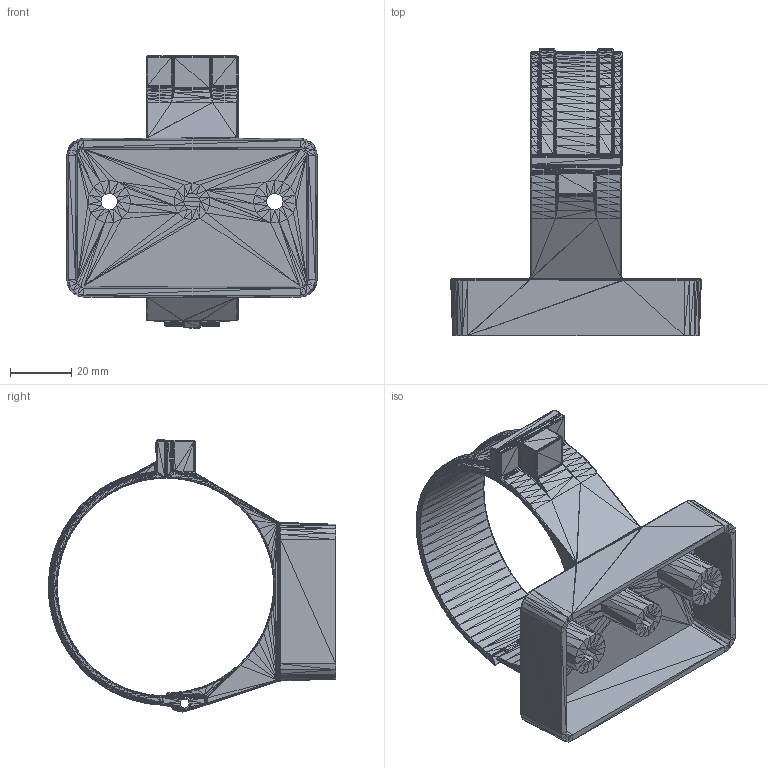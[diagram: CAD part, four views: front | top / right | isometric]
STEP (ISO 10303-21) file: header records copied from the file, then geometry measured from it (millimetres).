
FILE_DESCRIPTION((''),'2;1');
FILE_NAME('053634', '2026-08-12T07:36:42', (''), (''), 'ImageToStl.com STEP Converter','', '');
FILE_SCHEMA(('AUTOMOTIVE_DESIGN_CC2'));
Length unit declared in the file: metre
Products named in the file (1): product0
Bounding box: 81.76 x 93.73 x 88.75 mm (x, y, z)
Surface area: 34520.4 mm2 (no closed solid volume)
Topology: 0 solids, 10872 shells, 10872 faces, 32616 edges, 5439 vertices
Faces by surface type: plane 10872
Entity records: 250090 total; most frequent: DIRECTION 54362, ORIENTED_EDGE 32616, EDGE_CURVE 32616, LINE 32616, VECTOR 32616, AXIS2_PLACEMENT_3D 10873, FACE_SURFACE 10872, PLANE 10872
